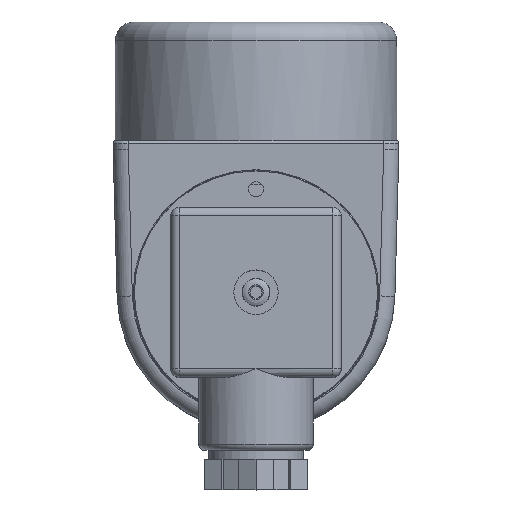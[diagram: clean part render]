
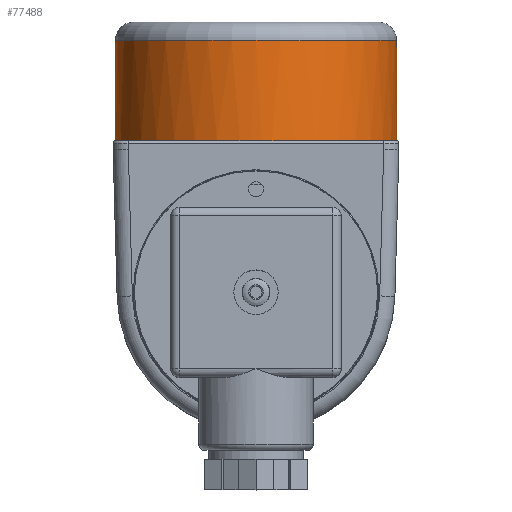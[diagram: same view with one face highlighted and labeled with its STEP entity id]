
A CAD part, top view. The second image highlights one B-rep face of the part: STEP entity #77488.
In plain terms, the highlighted cylindrical face has radius 23.15 mm (diameter 46.3 mm), a full revolution.
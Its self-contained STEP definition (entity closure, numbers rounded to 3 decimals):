
#5777=CIRCLE('',#83488,23.15);
#5778=CIRCLE('',#83489,23.15);
#5779=CIRCLE('',#83490,23.15);
#5780=CIRCLE('',#83491,23.15);
#5781=CIRCLE('',#83492,23.15);
#5782=CIRCLE('',#83493,23.15);
#5783=CIRCLE('',#83494,23.15);
#5784=CIRCLE('',#83495,23.15);
#5785=CIRCLE('',#83496,23.15);
#5786=CIRCLE('',#83497,23.15);
#9437=FACE_OUTER_BOUND('',#13984,.T.);
#13984=EDGE_LOOP('',(#65193,#65194,#65195,#65196,#65197,#65198,#65199,#65200,
#65201,#65202,#65203,#65204));
#21562=LINE('',#131884,#29306);
#29306=VECTOR('',#99583,23.15);
#36798=VERTEX_POINT('',#131880);
#36799=VERTEX_POINT('',#131881);
#36800=VERTEX_POINT('',#131883);
#36801=VERTEX_POINT('',#131886);
#36802=VERTEX_POINT('',#131888);
#36803=VERTEX_POINT('',#131890);
#36804=VERTEX_POINT('',#131892);
#36805=VERTEX_POINT('',#131894);
#36806=VERTEX_POINT('',#131896);
#36807=VERTEX_POINT('',#131898);
#46731=EDGE_CURVE('',#36798,#36799,#5777,.T.);
#46732=EDGE_CURVE('',#36799,#36800,#21562,.T.);
#46733=EDGE_CURVE('',#36800,#36800,#5778,.T.);
#46734=EDGE_CURVE('',#36799,#36801,#5779,.T.);
#46735=EDGE_CURVE('',#36801,#36802,#5780,.T.);
#46736=EDGE_CURVE('',#36802,#36803,#5781,.T.);
#46737=EDGE_CURVE('',#36803,#36804,#5782,.T.);
#46738=EDGE_CURVE('',#36804,#36805,#5783,.T.);
#46739=EDGE_CURVE('',#36805,#36806,#5784,.T.);
#46740=EDGE_CURVE('',#36806,#36807,#5785,.T.);
#46741=EDGE_CURVE('',#36807,#36798,#5786,.T.);
#65193=ORIENTED_EDGE('',*,*,#46731,.T.);
#65194=ORIENTED_EDGE('',*,*,#46732,.T.);
#65195=ORIENTED_EDGE('',*,*,#46733,.F.);
#65196=ORIENTED_EDGE('',*,*,#46732,.F.);
#65197=ORIENTED_EDGE('',*,*,#46734,.T.);
#65198=ORIENTED_EDGE('',*,*,#46735,.T.);
#65199=ORIENTED_EDGE('',*,*,#46736,.T.);
#65200=ORIENTED_EDGE('',*,*,#46737,.T.);
#65201=ORIENTED_EDGE('',*,*,#46738,.T.);
#65202=ORIENTED_EDGE('',*,*,#46739,.T.);
#65203=ORIENTED_EDGE('',*,*,#46740,.T.);
#65204=ORIENTED_EDGE('',*,*,#46741,.T.);
#74478=CYLINDRICAL_SURFACE('',#83487,23.15);
#77488=ADVANCED_FACE('',(#9437),#74478,.T.);
#83487=AXIS2_PLACEMENT_3D('',#131879,#99579,#99580);
#83488=AXIS2_PLACEMENT_3D('',#131882,#99581,#99582);
#83489=AXIS2_PLACEMENT_3D('',#131885,#99584,#99585);
#83490=AXIS2_PLACEMENT_3D('',#131887,#99586,#99587);
#83491=AXIS2_PLACEMENT_3D('',#131889,#99588,#99589);
#83492=AXIS2_PLACEMENT_3D('',#131891,#99590,#99591);
#83493=AXIS2_PLACEMENT_3D('',#131893,#99592,#99593);
#83494=AXIS2_PLACEMENT_3D('',#131895,#99594,#99595);
#83495=AXIS2_PLACEMENT_3D('',#131897,#99596,#99597);
#83496=AXIS2_PLACEMENT_3D('',#131899,#99598,#99599);
#83497=AXIS2_PLACEMENT_3D('',#131900,#99600,#99601);
#99579=DIRECTION('center_axis',(0.,-1.,0.));
#99580=DIRECTION('ref_axis',(-1.,0.,0.));
#99581=DIRECTION('center_axis',(0.,1.,0.));
#99582=DIRECTION('ref_axis',(-1.,0.,0.));
#99583=DIRECTION('',(0.,1.,0.));
#99584=DIRECTION('center_axis',(0.,1.,0.));
#99585=DIRECTION('ref_axis',(-1.,0.,0.));
#99586=DIRECTION('center_axis',(0.,1.,0.));
#99587=DIRECTION('ref_axis',(-1.,0.,0.));
#99588=DIRECTION('center_axis',(0.,1.,0.));
#99589=DIRECTION('ref_axis',(-1.,0.,0.));
#99590=DIRECTION('center_axis',(0.,1.,0.));
#99591=DIRECTION('ref_axis',(-1.,0.,0.));
#99592=DIRECTION('center_axis',(0.,1.,0.));
#99593=DIRECTION('ref_axis',(-1.,0.,0.));
#99594=DIRECTION('center_axis',(0.,1.,0.));
#99595=DIRECTION('ref_axis',(-1.,0.,0.));
#99596=DIRECTION('center_axis',(0.,1.,0.));
#99597=DIRECTION('ref_axis',(-1.,0.,0.));
#99598=DIRECTION('center_axis',(0.,1.,0.));
#99599=DIRECTION('ref_axis',(-1.,0.,0.));
#99600=DIRECTION('center_axis',(0.,1.,0.));
#99601=DIRECTION('ref_axis',(-1.,0.,0.));
#131879=CARTESIAN_POINT('Origin',(0.,44.5,82.5));
#131880=CARTESIAN_POINT('',(23.,25.,85.131));
#131881=CARTESIAN_POINT('',(23.15,25.,82.5));
#131882=CARTESIAN_POINT('Origin',(0.,25.,82.5));
#131883=CARTESIAN_POINT('',(23.15,41.5,82.5));
#131884=CARTESIAN_POINT('',(23.15,44.5,82.5));
#131885=CARTESIAN_POINT('Origin',(0.,41.5,82.5));
#131886=CARTESIAN_POINT('',(23.,25.,79.869));
#131887=CARTESIAN_POINT('Origin',(0.,25.,82.5));
#131888=CARTESIAN_POINT('',(2.631,25.,59.5));
#131889=CARTESIAN_POINT('Origin',(0.,25.,82.5));
#131890=CARTESIAN_POINT('',(-2.631,25.,59.5));
#131891=CARTESIAN_POINT('Origin',(0.,25.,82.5));
#131892=CARTESIAN_POINT('',(-23.,25.,79.869));
#131893=CARTESIAN_POINT('Origin',(0.,25.,82.5));
#131894=CARTESIAN_POINT('',(-23.,25.,85.131));
#131895=CARTESIAN_POINT('Origin',(0.,25.,82.5));
#131896=CARTESIAN_POINT('',(-2.631,25.,105.5));
#131897=CARTESIAN_POINT('Origin',(0.,25.,82.5));
#131898=CARTESIAN_POINT('',(2.631,25.,105.5));
#131899=CARTESIAN_POINT('Origin',(0.,25.,82.5));
#131900=CARTESIAN_POINT('Origin',(0.,25.,82.5));
